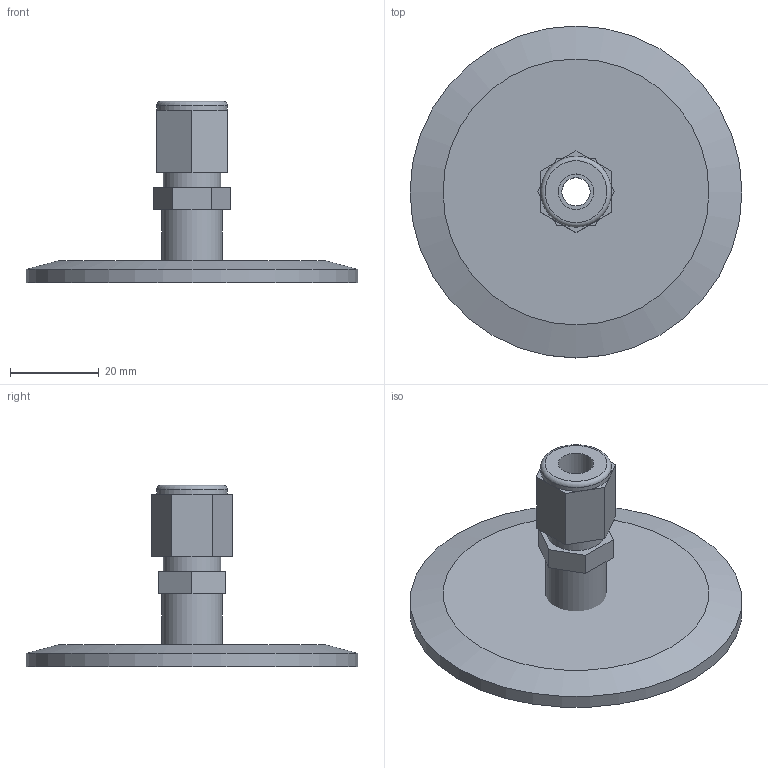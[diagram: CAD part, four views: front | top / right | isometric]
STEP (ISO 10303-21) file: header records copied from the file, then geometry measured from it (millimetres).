
FILE_DESCRIPTION( ( 'Unknown' ), '1' );
FILE_NAME( 'X:/Daten ( aktueller Bestand )/Projekte und Zeichnungen/Solid Edge/STP-Dateien/Adapter KF/1827-8.stp', 'Unknown', ( 'Unknown' ), ( 'Unknown' ), 'PSStep 14.0', 'Unknown', ' ' );
FILE_SCHEMA( ( 'AUTOMOTIVE_DESIGN { 1 0 10303 214 1 1 1 1 }' ) );
Length unit declared in the file: millimetre
Products named in the file (3): Assem1; 8x1-4; 1827- 1-2
Assembly tree (2 placements, depth 2):
  Assem1
    8x1-4
    1827- 1-2
Bounding box: 75 x 75 x 41 mm (x, y, z)
Volume: 24078.2 mm3; surface area: 13548.1 mm2
Topology: 2 solids, 2 shells, 39 faces, 78 edges, 49 vertices
Faces by surface type: plane 28, cylinder 9, torus 1, cone 1
Full cylindrical faces by diameter (mm): 6.4 x1, 8 x1, 12.8 x1, 13 x1, 13.7 x1, 16 x1, 46 x1, 52.4 x1, 75 x1
Entity records: 1324 total; most frequent: DIRECTION 176, CARTESIAN_POINT 158, ORIENTED_EDGE 134, AXIS2_PLACEMENT_3D 67, EDGE_CURVE 67, EDGE_LOOP 60, FACE_OUTER_BOUND 49, VERTEX_POINT 49
